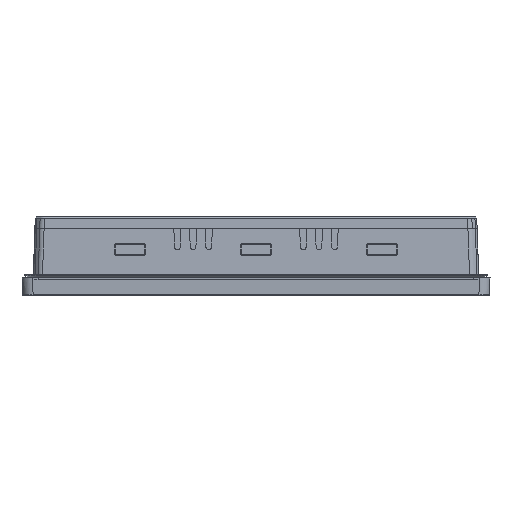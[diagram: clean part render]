
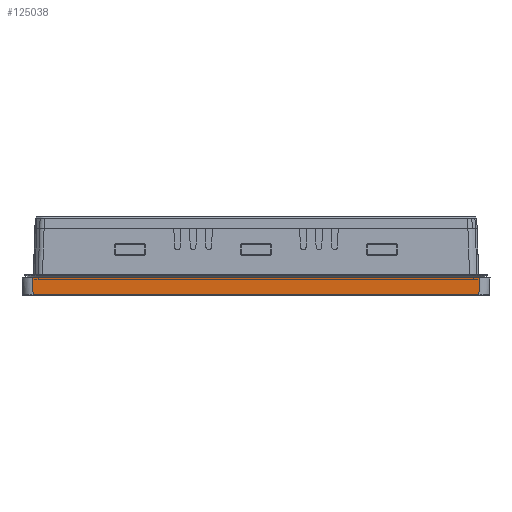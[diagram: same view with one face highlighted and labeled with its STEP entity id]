
A CAD part, left-side view. The second image highlights one B-rep face of the part: STEP entity #125038.
In plain terms, the highlighted planar face has unit normal (-0.999, 0, -0.035).
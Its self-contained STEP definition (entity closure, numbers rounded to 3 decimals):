
#3910 = LINE ( 'NONE', #25135, #134294 ) ;
#5376 = EDGE_LOOP ( 'NONE', ( #20800, #7206, #15431, #110298 ) ) ;
#7206 = ORIENTED_EDGE ( 'NONE', *, *, #127915, .T. ) ;
#7858 = DIRECTION ( 'NONE',  ( 0.035, -0.035, -0.999 ) ) ;
#10080 = EDGE_CURVE ( 'NONE', #46732, #109030, #29769, .T. ) ;
#15431 = ORIENTED_EDGE ( 'NONE', *, *, #105229, .T. ) ;
#20800 = ORIENTED_EDGE ( 'NONE', *, *, #10080, .T. ) ;
#25135 = CARTESIAN_POINT ( 'NONE',  ( -211.007, -127.504, -1.807 ) ) ;
#26494 = DIRECTION ( 'NONE',  ( 0., -1., 0. ) ) ;
#27452 = LINE ( 'NONE', #78204, #57707 ) ;
#29769 = LINE ( 'NONE', #61263, #70968 ) ;
#32938 = VECTOR ( 'NONE', #98457, 1000. ) ;
#33844 = AXIS2_PLACEMENT_3D ( 'NONE', #46960, #69547, #79855 ) ;
#36685 = FACE_OUTER_BOUND ( 'NONE', #5376, .T. ) ;
#46638 = DIRECTION ( 'NONE',  ( -0.035, -0.035, 0.999 ) ) ;
#46732 = VERTEX_POINT ( 'NONE', #110231 ) ;
#46772 = CARTESIAN_POINT ( 'NONE',  ( -211.007, -127.51, -1.807 ) ) ;
#46960 = CARTESIAN_POINT ( 'NONE',  ( -211., -133.5, -2. ) ) ;
#53013 = CARTESIAN_POINT ( 'NONE',  ( -211.349, -127.853, 8. ) ) ;
#57707 = VECTOR ( 'NONE', #46638, 1000. ) ;
#61263 = CARTESIAN_POINT ( 'NONE',  ( -210.682, 127.186, -11.092 ) ) ;
#69547 = DIRECTION ( 'NONE',  ( -0.999, 0., -0.035 ) ) ;
#70968 = VECTOR ( 'NONE', #7858, 1000. ) ;
#75899 = CARTESIAN_POINT ( 'NONE',  ( -211.349, 0., 8. ) ) ;
#78204 = CARTESIAN_POINT ( 'NONE',  ( -211.007, -127.511, -1.791 ) ) ;
#78501 = PLANE ( 'NONE',  #33844 ) ;
#79855 = DIRECTION ( 'NONE',  ( -0.035, 0., 0.999 ) ) ;
#89933 = EDGE_CURVE ( 'NONE', #46732, #125315, #131326, .T. ) ;
#90360 = CARTESIAN_POINT ( 'NONE',  ( -211.007, 127.51, -1.807 ) ) ;
#94471 = VERTEX_POINT ( 'NONE', #46772 ) ;
#98457 = DIRECTION ( 'NONE',  ( 0., -1., 0. ) ) ;
#105229 = EDGE_CURVE ( 'NONE', #94471, #125315, #27452, .T. ) ;
#109030 = VERTEX_POINT ( 'NONE', #90360 ) ;
#110231 = CARTESIAN_POINT ( 'NONE',  ( -211.349, 127.853, 8. ) ) ;
#110298 = ORIENTED_EDGE ( 'NONE', *, *, #89933, .F. ) ;
#125038 = ADVANCED_FACE ( 'NONE', ( #36685 ), #78501, .T. ) ;
#125315 = VERTEX_POINT ( 'NONE', #53013 ) ;
#127915 = EDGE_CURVE ( 'NONE', #109030, #94471, #3910, .T. ) ;
#131326 = LINE ( 'NONE', #75899, #32938 ) ;
#134294 = VECTOR ( 'NONE', #26494, 1000. ) ;
